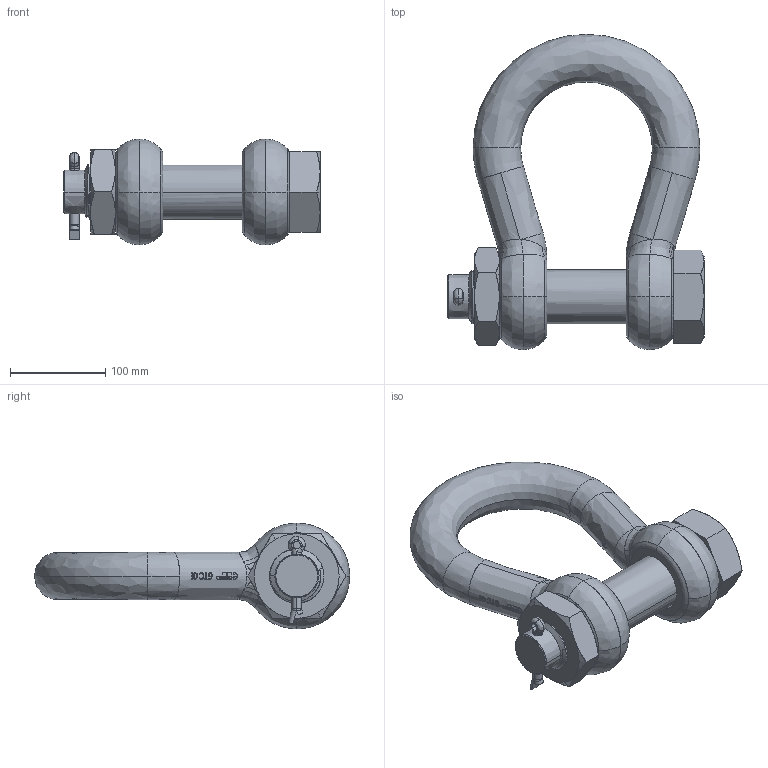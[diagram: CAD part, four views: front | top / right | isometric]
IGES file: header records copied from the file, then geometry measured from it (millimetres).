
Start section: START RECORD GO HERE.
Global section: file name: 35.igs; native system: Solidworks 2009            ion 5 Release 17 ; preprocessor: CATIA Version 5 Release 17 ; author: v.b.; organization: P4; date: 20090807.082333; units: millimetre
Bounding box: 269 x 331 x 111 mm (x, y, z)
Surface area: 241662.6 mm2 (no closed solid volume)
Topology: 0 solids, 0 shells, 731 faces, 4804 edges, 4796 vertices
Faces by surface type: bspline 333, plane 243, revolution 155
